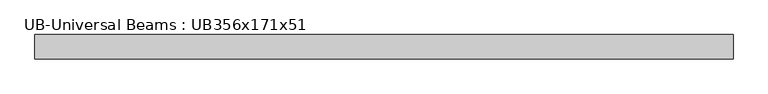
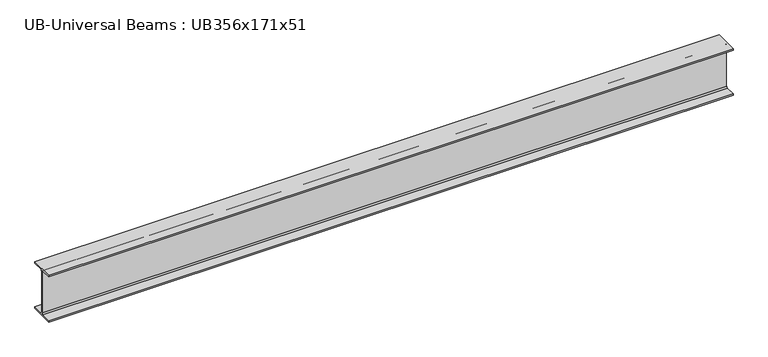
"""IFC4 building model written with IfcOpenShell, lengths in millimetres: beam geometry, UB-Universal Beams : UB356x171x51."""

import ifcopenshell
import ifcopenshell.guid

model = None  # the IFC model being written
_history = None  # IfcOwnerHistory: only IFC2X3 demands one
_inside = {}  # id of a spatial element -> (the spatial element, [elements in it])
_under = {}  # id of a project, library or spatial element -> (it, [spatial elements below it])
_declared = {}  # id of a project -> (the project, [libraries it declares])
_typed = {}  # id of a type object -> (the type object, [elements of that type])
_made_of = {}  # id of a material, layer set ... -> (it, [elements and type objects made of it])


def new_model(schema):
    """Start an empty IFC model of exactly this schema.

    Asked for "IFC4X3", IfcOpenShell would pick the latest addendum, in which some entities
    have other attributes; the version numbers below select the first issue.
    IFC2X3 requires an IfcOwnerHistory on every rooted entity: one is made here for all.
    """
    global model, _history
    if schema == "IFC4X3":
        model = ifcopenshell.file(schema_version=(4, 3, 0, 0))
    else:
        model = ifcopenshell.file(schema=schema)
    _inside.clear()
    _under.clear()
    _declared.clear()
    _typed.clear()
    _made_of.clear()
    _history = None
    if model.schema == "IFC2X3":
        org = make("IfcOrganization", Name="unknown")
        user = make(
            "IfcPersonAndOrganization",
            ThePerson=make("IfcPerson", FamilyName="unknown"),
            TheOrganization=org,
        )
        app = make(
            "IfcApplication",
            ApplicationDeveloper=org,
            Version="unknown",
            ApplicationFullName="unknown",
            ApplicationIdentifier="unknown",
        )
        _history = make(
            "IfcOwnerHistory",
            OwningUser=user,
            OwningApplication=app,
            ChangeAction="ADDED",
            CreationDate=0,
        )
    return model


def make(cls, **values):
    """One entity of the class cls with the attributes given. An attribute that is None is left unset."""
    return model.create_entity(
        cls, **{name: value for name, value in values.items() if value is not None}
    )


def rooted(cls, **values):
    """An entity with a GlobalId (a new one), such as an element, a storey or a relation."""
    return make(cls, GlobalId=ifcopenshell.guid.new(), OwnerHistory=_history, **values)


def si_unit(unit_type, name, prefix=None):
    """IfcSIUnit, for example si_unit("LENGTHUNIT", "METRE", prefix="MILLI")."""
    return make("IfcSIUnit", UnitType=unit_type, Prefix=prefix, Name=name)


def assignment(units):
    """IfcUnitAssignment: the units of a project."""
    return None if units is None else make("IfcUnitAssignment", Units=units)


def point(xyz):
    """IfcCartesianPoint."""
    return None if xyz is None else make("IfcCartesianPoint", Coordinates=xyz)


def direction(xyz):
    """IfcDirection."""
    return None if xyz is None else make("IfcDirection", DirectionRatios=xyz)


def frame(location, z_axis=None, x_axis=None):
    """IfcAxis2Placement3D, a coordinate frame: its origin and axes. An axis left out is left unset."""
    return make(
        "IfcAxis2Placement3D",
        Location=point(location),
        Axis=direction(z_axis),
        RefDirection=direction(x_axis),
    )


def frame_2d(location, x_axis=None):
    """IfcAxis2Placement2D, a coordinate frame in the plane: its origin and x axis."""
    return make(
        "IfcAxis2Placement2D", Location=point(location), RefDirection=direction(x_axis)
    )


def origin():
    """The frame at (0, 0, 0) with its axes left unset."""
    return frame((0.0, 0.0, 0.0))


def place(relative_to, where):
    """IfcLocalPlacement: puts the frame where relative to a parent placement (None: the world)."""
    return make(
        "IfcLocalPlacement", PlacementRelTo=relative_to, RelativePlacement=where
    )


def context(
    kind, dimensions, precision=None, world=None, true_north=None, identifier=None
):
    """IfcGeometricRepresentationContext, for example the 3D "Model" context."""
    return make(
        "IfcGeometricRepresentationContext",
        ContextIdentifier=identifier,
        ContextType=kind,
        CoordinateSpaceDimension=dimensions,
        Precision=precision,
        WorldCoordinateSystem=world,
        TrueNorth=true_north,
    )


def project(units=None, contexts=None):
    """IfcProject with its units and contexts."""
    return rooted(
        "IfcProject",
        Name="project",
        RepresentationContexts=contexts,
        UnitsInContext=assignment(units),
    )


def spatial(cls, under=None, at=None, **own):
    """A site, building, storey or space (cls), placed at a placement, below another one or the project."""
    s = rooted(cls, ObjectPlacement=at, **own)
    if under is not None:
        _under.setdefault(under.id(), (under, []))[1].append(s)
    return s


def polyline(points):
    """IfcPolyline through the points."""
    return make("IfcPolyline", Points=[point(p) for p in points])


def circle_curve(where, radius):
    """IfcCircle in the frame where."""
    return make("IfcCircle", Position=where, Radius=radius)


def trimmed(basis, trim1, trim2, sense, master):
    """IfcTrimmedCurve: the piece of a basis curve between two trims."""
    return make(
        "IfcTrimmedCurve",
        BasisCurve=basis,
        Trim1=trim1,
        Trim2=trim2,
        SenseAgreement=sense,
        MasterRepresentation=master,
    )


def segment(curve, same_sense, transition):
    """IfcCompositeCurveSegment."""
    return make(
        "IfcCompositeCurveSegment",
        Transition=transition,
        SameSense=same_sense,
        ParentCurve=curve,
    )


def composite_curve(segments, self_intersect=None):
    """IfcCompositeCurve: segments joined end to end."""
    return make("IfcCompositeCurve", Segments=segments, SelfIntersect=self_intersect)


def outline(outer, holes=None, kind="AREA"):
    """IfcArbitraryClosedProfileDef: a profile drawn as a closed curve; with holes, ...WithVoids."""
    if holes is None:
        return make("IfcArbitraryClosedProfileDef", ProfileType=kind, OuterCurve=outer)
    return make(
        "IfcArbitraryProfileDefWithVoids",
        ProfileType=kind,
        OuterCurve=outer,
        InnerCurves=holes,
    )


def extrude(swept, where, along, depth):
    """IfcExtrudedAreaSolid: the profile swept, set in the frame where, extruded along a direction by depth."""
    return make(
        "IfcExtrudedAreaSolid",
        SweptArea=swept,
        Position=where,
        ExtrudedDirection=direction(along),
        Depth=depth,
    )


def shape(context_of_items, identifier, shape_type, items):
    """IfcShapeRepresentation: the items that make up one representation, for example the "Body"."""
    return make(
        "IfcShapeRepresentation",
        ContextOfItems=context_of_items,
        RepresentationIdentifier=identifier,
        RepresentationType=shape_type,
        Items=items,
    )


def source(mapping_origin, context_of_items, identifier, shape_type, items):
    """IfcRepresentationMap: a shape defined once, which mapped items show again and again."""
    return make(
        "IfcRepresentationMap",
        MappingOrigin=mapping_origin,
        MappedRepresentation=shape(context_of_items, identifier, shape_type, items),
    )


def transform(
    local_origin,
    x_axis=None,
    y_axis=None,
    z_axis=None,
    scale=None,
    scale2=None,
    scale3=None,
    uniform=True,
):
    """IfcCartesianTransformationOperator3D, or its non-uniform kind. x_axis, y_axis, z_axis: its Axis1, 2, 3."""
    if uniform:
        return make(
            "IfcCartesianTransformationOperator3D",
            Axis1=direction(x_axis),
            Axis2=direction(y_axis),
            LocalOrigin=point(local_origin),
            Scale=scale,
            Axis3=direction(z_axis),
        )
    return make(
        "IfcCartesianTransformationOperator3DnonUniform",
        Axis1=direction(x_axis),
        Axis2=direction(y_axis),
        LocalOrigin=point(local_origin),
        Scale=scale,
        Axis3=direction(z_axis),
        Scale2=scale2,
        Scale3=scale3,
    )


def mapped(mapping_source, mapping_target):
    """IfcMappedItem: shows the shape of a source again, moved by a transform."""
    return make(
        "IfcMappedItem", MappingSource=mapping_source, MappingTarget=mapping_target
    )


def made_of(thing, what):
    """Note that an element or type object is made of a material, layer set ...; save() writes the relation."""
    if what is not None:
        _made_of.setdefault(what.id(), (what, []))[1].append(thing)
    return thing


def element(
    cls,
    number,
    at=None,
    inside=None,
    cuts=None,
    type_object=None,
    material=None,
    context=None,
    identifier="Body",
    shape_type=None,
    held_by="IfcProductDefinitionShape",
    body=None,
    shapes=None,
    **own,
):
    """One element of the class cls, such as IfcWall. Its Tag is "e" and its number.

    at: its placement. inside: the storey or other place that contains it. cuts: it is an
    opening in that element (IfcRelVoidsElement). A single representation is given by context,
    identifier, shape_type and body (its items); several are given by shapes. held_by: the class
    of the entity that holds the representations. save() writes the other relations.
    """
    e = rooted(cls, Tag="e%d" % number, ObjectPlacement=at, **own)
    if body is not None:
        shapes = [shape(context, identifier, shape_type, body)]
    if shapes is not None:
        e.Representation = make(held_by, Representations=shapes)
    if inside is not None:
        _inside.setdefault(inside.id(), (inside, []))[1].append(e)
    if cuts is not None:
        rooted(
            "IfcRelVoidsElement", RelatingBuildingElement=cuts, RelatedOpeningElement=e
        )
    if type_object is not None:
        _typed.setdefault(type_object.id(), (type_object, []))[1].append(e)
    return made_of(e, material)


def aggregate(whole, parts):
    """IfcRelAggregates: a whole, such as a stair, and the parts it consists of."""
    return rooted("IfcRelAggregates", RelatingObject=whole, RelatedObjects=parts)


def save(model, path):
    """Write the relations noted so far, then the file.

    IfcRelAggregates (storeys below a building ...), IfcRelContainedInSpatialStructure (elements
    in a storey), IfcRelDefinesByType, IfcRelAssociatesMaterial and IfcRelDeclares: one each for
    every whole, place, type object, material and project.
    """
    for whole, parts in _under.values():
        aggregate(whole, parts)
    for where, things in _inside.values():
        rooted(
            "IfcRelContainedInSpatialStructure",
            RelatedElements=things,
            RelatingStructure=where,
        )
    for kind, things in _typed.values():
        rooted("IfcRelDefinesByType", RelatedObjects=things, RelatingType=kind)
    for what, things in _made_of.values():
        rooted("IfcRelAssociatesMaterial", RelatedObjects=things, RelatingMaterial=what)
    for by, libraries in _declared.values():
        rooted("IfcRelDeclares", RelatingContext=by, RelatedDefinitions=libraries)
    model.write(path)


def ub_universal_beams_ub356x171x51_d6a9458c(model_context):
    return source(origin(), model_context, "Body", "SweptSolid", [
        extrude(outline(composite_curve([segment(polyline([(85.75, -166.0), (85.75, -177.5), (-85.75, -177.5), (-85.75, -166.0), (-13.9, -166.0)]), True, "CONTINUOUS"), segment(trimmed(circle_curve(frame_2d((-13.9, -155.8)), 10.2), [point((-13.9, -166.0))], [point((-3.7, -155.8))], True, "CARTESIAN"), True, "CONTINUOUS"), segment(polyline([(-3.7, -155.8), (-3.7, 155.8)]), True, "CONTINUOUS"), segment(trimmed(circle_curve(frame_2d((-13.9, 155.8)), 10.2), [point((-3.7, 155.8))], [point((-13.9, 166.0))], True, "CARTESIAN"), True, "CONTINUOUS"), segment(polyline([(-13.9, 166.0), (-85.75, 166.0), (-85.75, 177.5), (85.75, 177.5), (85.75, 166.0), (13.9, 166.0)]), True, "CONTINUOUS"), segment(trimmed(circle_curve(frame_2d((13.9, 155.8)), 10.2), [point((13.9, 166.0))], [point((3.7, 155.8))], True, "CARTESIAN"), True, "CONTINUOUS"), segment(polyline([(3.7, 155.8), (3.7, -155.8)]), True, "CONTINUOUS"), segment(trimmed(circle_curve(frame_2d((13.9, -155.8)), 10.2), [point((3.7, -155.8))], [point((13.9, -166.0))], True, "CARTESIAN"), True, "CONTINUOUS"), segment(polyline([(13.9, -166.0), (85.75, -166.0)]), True, "CONTINUOUS")], self_intersect=False)), frame((-2371.25, 0.0, 0.0), z_axis=(1.0, 0.0, 0.0), x_axis=(0.0, 1.0, 0.0)), (0.0, 0.0, 1.0), 4909.2),
    ])


if __name__ == "__main__":
    model = new_model("IFC4")
    model_context = context("Model", 3, world=origin())
    ifc_project = project(units=[si_unit("LENGTHUNIT", "METRE", prefix="MILLI")], contexts=[model_context])
    site = spatial("IfcSite", under=ifc_project)
    building = spatial("IfcBuilding", under=site)
    placement = place(None, origin())
    ub_universal_beams_ub356x171x51_shape = ub_universal_beams_ub356x171x51_d6a9458c(model_context)
    element("IfcBeam", 1, ObjectType="UB-Universal Beams : UB356x171x51", at=placement, inside=building, context=model_context, shape_type="MappedRepresentation", body=[
        mapped(ub_universal_beams_ub356x171x51_shape, transform((0.0, 0.0, 0.0), x_axis=(1.0, 0.0, 0.0), y_axis=(0.0, 1.0, 0.0), z_axis=(0.0, 0.0, 1.0))),
    ])
    save(model, "model.ifc")
